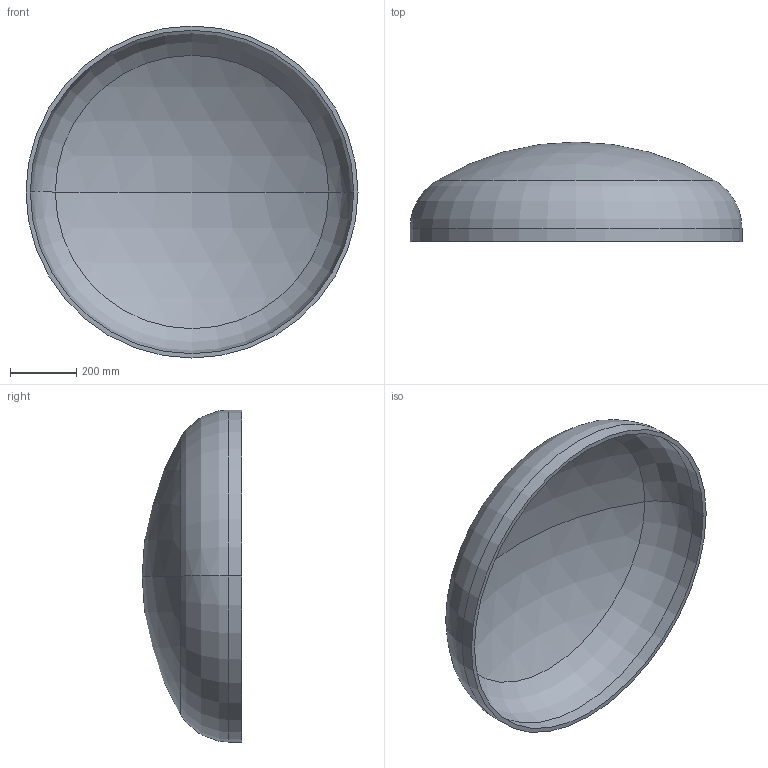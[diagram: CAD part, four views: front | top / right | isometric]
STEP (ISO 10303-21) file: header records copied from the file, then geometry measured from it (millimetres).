
FILE_DESCRIPTION (( 'STEP AP203' ), '1' );
FILE_NAME ('DIN 28013 Korbbogenform_-_Boden DIN 28013 - 1000 x 40 - I - s=13.step', '2016-07-01T08:42:41', ( '' ), ( '' ), 'SwSTEP 2.0', 'SolidWorks 2013', '' );
FILE_SCHEMA (( 'CONFIG_CONTROL_DESIGN' ));
Length unit declared in the file: millimetre
Products named in the file (1): DIN 28013 Korbbogenform_-_Boden DIN 28013 - 1000 x 40 - I - s=13
Bounding box: 1000 x 300.01 x 1000 mm (x, y, z)
Volume: 15530202.9 mm3; surface area: 2429924.9 mm2
Topology: 1 solids, 1 shells, 13 faces, 24 edges, 14 vertices
Faces by surface type: torus 4, cylinder 4, sphere 4, plane 1
Entity records: 407 total; most frequent: DIRECTION 72, CARTESIAN_POINT 52, ORIENTED_EDGE 48, AXIS2_PLACEMENT_3D 34, EDGE_CURVE 24, CIRCLE 20, EDGE_LOOP 14, VERTEX_POINT 14
